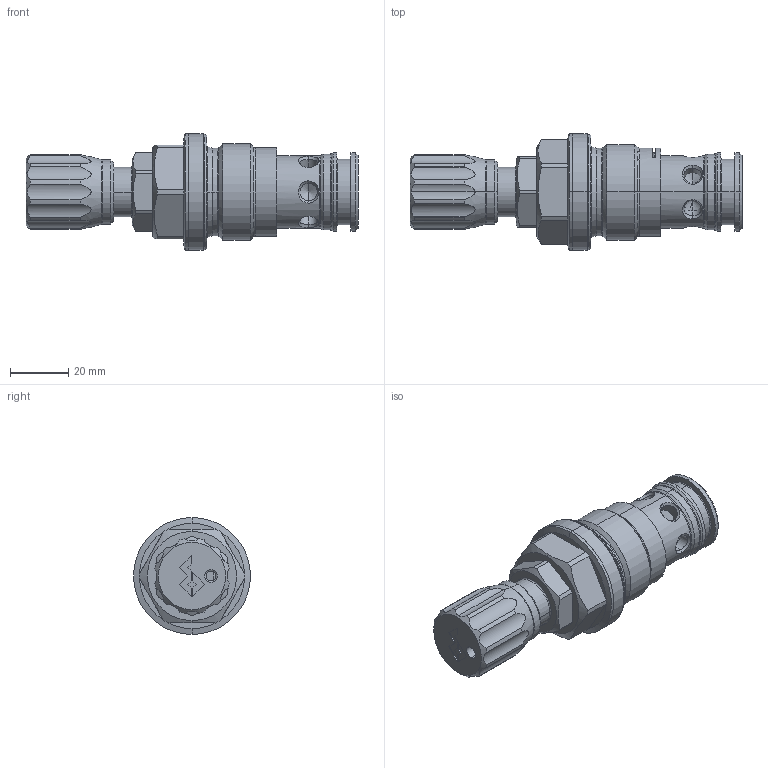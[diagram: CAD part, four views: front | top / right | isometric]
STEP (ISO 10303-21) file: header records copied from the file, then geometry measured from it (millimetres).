
FILE_DESCRIPTION (( 'STEP AP214' ), '1' );
FILE_NAME ('BVDPM33.STEP', '2014-01-22T12:38:51', ( '' ), ( '' ), 'SwSTEP 2.0', 'SolidWorks 2012', '' );
FILE_SCHEMA (( 'AUTOMOTIVE_DESIGN' ));
Length unit declared in the file: millimetre
Products named in the file (1): BVDPM33
Bounding box: 113.6 x 40 x 40 mm (x, y, z)
Volume: 70019.7 mm3; surface area: 18633.7 mm2
Topology: 7 solids, 7 shells, 281 faces, 658 edges, 390 vertices
Faces by surface type: cylinder 103, plane 76, cone 54, torus 36, bspline 12
Entity records: 12803 total; most frequent: CARTESIAN_POINT 3298, DIRECTION 1364, ORIENTED_EDGE 1284, EDGE_CURVE 642, AXIS2_PLACEMENT_3D 548, VERTEX_POINT 390, EDGE_LOOP 300, UNCERTAINTY_MEASURE_WITH_UNIT 290
